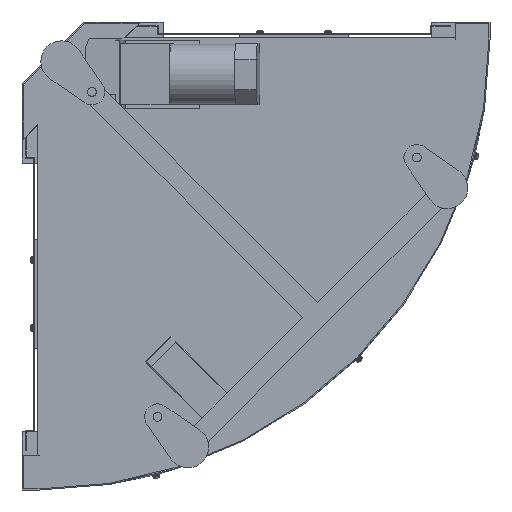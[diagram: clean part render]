
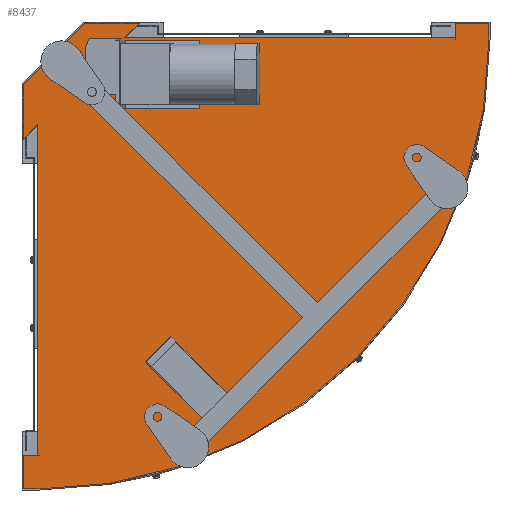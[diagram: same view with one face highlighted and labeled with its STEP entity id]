
A CAD part, front view. The second image highlights one B-rep face of the part: STEP entity #8437.
In plain terms, the highlighted planar face has unit normal (0, -1, 0).
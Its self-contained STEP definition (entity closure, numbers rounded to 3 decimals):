
#298 = EDGE_CURVE ( 'NONE', #17809, #28916, #15202, .T. ) ;
#946 = CARTESIAN_POINT ( 'NONE',  ( -1.544, -145.7, -612.498 ) ) ;
#1030 = CARTESIAN_POINT ( 'NONE',  ( -23.4, -145.7, -612.5 ) ) ;
#1179 = VERTEX_POINT ( 'NONE', #29006 ) ;
#1250 = PLANE ( 'NONE',  #2143 ) ;
#1616 = DIRECTION ( 'NONE',  ( 0., 0., 1. ) ) ;
#1622 = CARTESIAN_POINT ( 'NONE',  ( -23.4, -145.7, -66.663 ) ) ;
#1767 = VECTOR ( 'NONE', #13931, 1000. ) ;
#1802 = VECTOR ( 'NONE', #7232, 1000. ) ;
#1835 = EDGE_LOOP ( 'NONE', ( #26987, #17021, #31090, #27518, #29790, #3070, #23511, #19654, #13600, #24461, #10744, #28424, #3439, #23408, #27145, #17409 ) ) ;
#1873 = VECTOR ( 'NONE', #31119, 1000. ) ;
#2047 = CARTESIAN_POINT ( 'NONE',  ( -23.4, -145.7, -147.5 ) ) ;
#2143 = AXIS2_PLACEMENT_3D ( 'NONE', #18807, #21251, #2171 ) ;
#2171 = DIRECTION ( 'NONE',  ( 0., 0., 1. ) ) ;
#2381 = CARTESIAN_POINT ( 'NONE',  ( 147.5, -145.7, 23.4 ) ) ;
#2403 = EDGE_CURVE ( 'NONE', #2842, #10573, #15207, .T. ) ;
#2662 = VECTOR ( 'NONE', #12923, 1000. ) ;
#2812 = CIRCLE ( 'NONE', #6756, 661.5 ) ;
#2842 = VERTEX_POINT ( 'NONE', #5883 ) ;
#2959 = VECTOR ( 'NONE', #13948, 1000. ) ;
#3070 = ORIENTED_EDGE ( 'NONE', *, *, #24796, .T. ) ;
#3328 = LINE ( 'NONE', #16748, #23799 ) ;
#3439 = ORIENTED_EDGE ( 'NONE', *, *, #19483, .T. ) ;
#3755 = VECTOR ( 'NONE', #11567, 1000. ) ;
#3792 = VECTOR ( 'NONE', #8256, 1000. ) ;
#4512 = EDGE_CURVE ( 'NONE', #1179, #9563, #28836, .T. ) ;
#4650 = EDGE_CURVE ( 'NONE', #18434, #31416, #17052, .T. ) ;
#4870 = AXIS2_PLACEMENT_3D ( 'NONE', #31276, #14179, #16592 ) ;
#5181 = CARTESIAN_POINT ( 'NONE',  ( 612.5, -145.7, 0. ) ) ;
#5184 = CARTESIAN_POINT ( 'NONE',  ( 66.663, -145.7, 23.4 ) ) ;
#5472 = CARTESIAN_POINT ( 'NONE',  ( -23.4, -145.7, -612.5 ) ) ;
#5769 = LINE ( 'NONE', #7768, #24392 ) ;
#5883 = CARTESIAN_POINT ( 'NONE',  ( 0., -145.7, -612.5 ) ) ;
#5898 = AXIS2_PLACEMENT_3D ( 'NONE', #20680, #18459, #1616 ) ;
#6142 = VERTEX_POINT ( 'NONE', #8209 ) ;
#6286 = CARTESIAN_POINT ( 'NONE',  ( -23.4, -145.7, -661.5 ) ) ;
#6455 = VERTEX_POINT ( 'NONE', #5184 ) ;
#6492 = VECTOR ( 'NONE', #7868, 1000. ) ;
#6756 = AXIS2_PLACEMENT_3D ( 'NONE', #16533, #11586, #25785 ) ;
#6969 = CIRCLE ( 'NONE', #4870, 612.5 ) ;
#6979 = CARTESIAN_POINT ( 'NONE',  ( 661.5, -145.7, 23.4 ) ) ;
#7232 = DIRECTION ( 'NONE',  ( -1., 0., 0. ) ) ;
#7261 = LINE ( 'NONE', #29527, #6492 ) ;
#7357 = EDGE_CURVE ( 'NONE', #10556, #29676, #18080, .T. ) ;
#7768 = CARTESIAN_POINT ( 'NONE',  ( -1.544, -145.7, -612.498 ) ) ;
#7868 = DIRECTION ( 'NONE',  ( 0.707, 0., 0.707 ) ) ;
#8209 = CARTESIAN_POINT ( 'NONE',  ( -23.4, -145.7, -147.5 ) ) ;
#8256 = DIRECTION ( 'NONE',  ( 1., 0., 0. ) ) ;
#8294 = EDGE_CURVE ( 'NONE', #28916, #8485, #14752, .T. ) ;
#8302 = LINE ( 'NONE', #2047, #1873 ) ;
#8437 = ADVANCED_FACE ( 'NONE', ( #8701 ), #1250, .F. ) ;
#8485 = VERTEX_POINT ( 'NONE', #13849 ) ;
#8701 = FACE_OUTER_BOUND ( 'NONE', #1835, .T. ) ;
#8979 = DIRECTION ( 'NONE',  ( 1., 0., 0. ) ) ;
#9563 = VERTEX_POINT ( 'NONE', #31146 ) ;
#9880 = EDGE_CURVE ( 'NONE', #1179, #19790, #8302, .T. ) ;
#10556 = VERTEX_POINT ( 'NONE', #27682 ) ;
#10573 = VERTEX_POINT ( 'NONE', #946 ) ;
#10744 = ORIENTED_EDGE ( 'NONE', *, *, #298, .T. ) ;
#10882 = VECTOR ( 'NONE', #17749, 1000. ) ;
#11567 = DIRECTION ( 'NONE',  ( 0., 0., 1. ) ) ;
#11586 = DIRECTION ( 'NONE',  ( 0., -1., 0. ) ) ;
#12372 = LINE ( 'NONE', #25717, #1767 ) ;
#12415 = LINE ( 'NONE', #2381, #1802 ) ;
#12469 = LINE ( 'NONE', #26258, #2959 ) ;
#12923 = DIRECTION ( 'NONE',  ( 0., 0., -1. ) ) ;
#13299 = EDGE_CURVE ( 'NONE', #19790, #6455, #12415, .T. ) ;
#13316 = CARTESIAN_POINT ( 'NONE',  ( 147.5, -145.7, 23.4 ) ) ;
#13600 = ORIENTED_EDGE ( 'NONE', *, *, #2403, .F. ) ;
#13849 = CARTESIAN_POINT ( 'NONE',  ( 0., -145.7, -661.5 ) ) ;
#13931 = DIRECTION ( 'NONE',  ( -1., 0., 0. ) ) ;
#13948 = DIRECTION ( 'NONE',  ( -0.707, 0., -0.707 ) ) ;
#14111 = VERTEX_POINT ( 'NONE', #1622 ) ;
#14179 = DIRECTION ( 'NONE',  ( 0., 1., 0. ) ) ;
#14319 = DIRECTION ( 'NONE',  ( -1., 0., 0. ) ) ;
#14752 = LINE ( 'NONE', #6286, #20051 ) ;
#15202 = LINE ( 'NONE', #1030, #2662 ) ;
#15207 = CIRCLE ( 'NONE', #5898, 612.5 ) ;
#15253 = EDGE_CURVE ( 'NONE', #10573, #24780, #5769, .T. ) ;
#16212 = CARTESIAN_POINT ( 'NONE',  ( 661.5, -145.7, 0. ) ) ;
#16533 = CARTESIAN_POINT ( 'NONE',  ( 0., -145.7, 0. ) ) ;
#16592 = DIRECTION ( 'NONE',  ( 0., 0., 1. ) ) ;
#16748 = CARTESIAN_POINT ( 'NONE',  ( 0., -145.7, -612.5 ) ) ;
#17021 = ORIENTED_EDGE ( 'NONE', *, *, #4512, .F. ) ;
#17052 = LINE ( 'NONE', #16212, #3755 ) ;
#17290 = EDGE_CURVE ( 'NONE', #6142, #24780, #7261, .T. ) ;
#17409 = ORIENTED_EDGE ( 'NONE', *, *, #7357, .T. ) ;
#17749 = DIRECTION ( 'NONE',  ( 0., 0., -1. ) ) ;
#17809 = VERTEX_POINT ( 'NONE', #5472 ) ;
#18080 = LINE ( 'NONE', #25065, #10882 ) ;
#18235 = EDGE_CURVE ( 'NONE', #6455, #14111, #12469, .T. ) ;
#18392 = EDGE_CURVE ( 'NONE', #2842, #17809, #3328, .T. ) ;
#18434 = VERTEX_POINT ( 'NONE', #24057 ) ;
#18459 = DIRECTION ( 'NONE',  ( 0., 1., 0. ) ) ;
#18807 = CARTESIAN_POINT ( 'NONE',  ( 0., -145.7, 0. ) ) ;
#19483 = EDGE_CURVE ( 'NONE', #8485, #18434, #2812, .T. ) ;
#19654 = ORIENTED_EDGE ( 'NONE', *, *, #15253, .F. ) ;
#19790 = VERTEX_POINT ( 'NONE', #13316 ) ;
#20029 = VECTOR ( 'NONE', #21137, 1000. ) ;
#20051 = VECTOR ( 'NONE', #8979, 1000. ) ;
#20680 = CARTESIAN_POINT ( 'NONE',  ( 0., -145.7, 0. ) ) ;
#21137 = DIRECTION ( 'NONE',  ( 0., 0., -1. ) ) ;
#21251 = DIRECTION ( 'NONE',  ( 0., 1., 0. ) ) ;
#23408 = ORIENTED_EDGE ( 'NONE', *, *, #4650, .T. ) ;
#23511 = ORIENTED_EDGE ( 'NONE', *, *, #17290, .T. ) ;
#23799 = VECTOR ( 'NONE', #14319, 1000. ) ;
#24057 = CARTESIAN_POINT ( 'NONE',  ( 661.5, -145.7, 0. ) ) ;
#24392 = VECTOR ( 'NONE', #24532, 1000. ) ;
#24461 = ORIENTED_EDGE ( 'NONE', *, *, #18392, .T. ) ;
#24532 = DIRECTION ( 'NONE',  ( 0., 0., 1. ) ) ;
#24780 = VERTEX_POINT ( 'NONE', #28489 ) ;
#24796 = EDGE_CURVE ( 'NONE', #14111, #6142, #31445, .T. ) ;
#25065 = CARTESIAN_POINT ( 'NONE',  ( 612.5, -145.7, 23.4 ) ) ;
#25717 = CARTESIAN_POINT ( 'NONE',  ( 661.5, -145.7, 23.4 ) ) ;
#25785 = DIRECTION ( 'NONE',  ( 0., 0., 1. ) ) ;
#26258 = CARTESIAN_POINT ( 'NONE',  ( 66.663, -145.7, 23.4 ) ) ;
#26628 = EDGE_CURVE ( 'NONE', #31416, #10556, #12372, .T. ) ;
#26987 = ORIENTED_EDGE ( 'NONE', *, *, #29072, .F. ) ;
#27145 = ORIENTED_EDGE ( 'NONE', *, *, #26628, .T. ) ;
#27518 = ORIENTED_EDGE ( 'NONE', *, *, #13299, .T. ) ;
#27682 = CARTESIAN_POINT ( 'NONE',  ( 612.5, -145.7, 23.4 ) ) ;
#28384 = CARTESIAN_POINT ( 'NONE',  ( -23.4, -145.7, -66.663 ) ) ;
#28424 = ORIENTED_EDGE ( 'NONE', *, *, #8294, .T. ) ;
#28489 = CARTESIAN_POINT ( 'NONE',  ( -1.629, -145.7, -125.729 ) ) ;
#28836 = LINE ( 'NONE', #30140, #3792 ) ;
#28916 = VERTEX_POINT ( 'NONE', #30219 ) ;
#29006 = CARTESIAN_POINT ( 'NONE',  ( 125.729, -145.7, 1.629 ) ) ;
#29072 = EDGE_CURVE ( 'NONE', #9563, #29676, #6969, .T. ) ;
#29527 = CARTESIAN_POINT ( 'NONE',  ( -23.4, -145.7, -147.5 ) ) ;
#29676 = VERTEX_POINT ( 'NONE', #5181 ) ;
#29790 = ORIENTED_EDGE ( 'NONE', *, *, #18235, .T. ) ;
#30140 = CARTESIAN_POINT ( 'NONE',  ( 125.729, -145.7, 1.629 ) ) ;
#30219 = CARTESIAN_POINT ( 'NONE',  ( -23.4, -145.7, -661.5 ) ) ;
#31090 = ORIENTED_EDGE ( 'NONE', *, *, #9880, .T. ) ;
#31119 = DIRECTION ( 'NONE',  ( 0.707, 0., 0.707 ) ) ;
#31146 = CARTESIAN_POINT ( 'NONE',  ( 612.498, -145.7, 1.544 ) ) ;
#31276 = CARTESIAN_POINT ( 'NONE',  ( 0., -145.7, 0. ) ) ;
#31416 = VERTEX_POINT ( 'NONE', #6979 ) ;
#31445 = LINE ( 'NONE', #28384, #20029 ) ;
